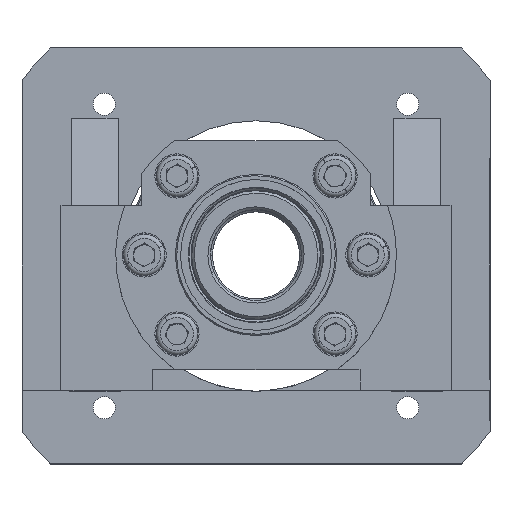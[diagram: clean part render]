
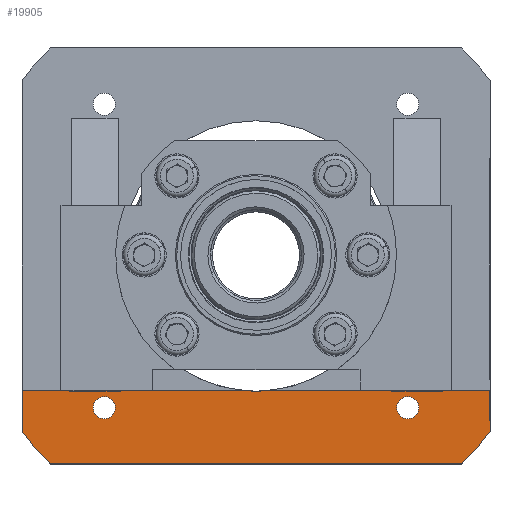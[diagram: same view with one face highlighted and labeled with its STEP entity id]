
A CAD part, top view. The second image highlights one B-rep face of the part: STEP entity #19905.
In plain terms, the highlighted planar face has unit normal (0, 0, 1).
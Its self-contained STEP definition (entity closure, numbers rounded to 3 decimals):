
#17 = CARTESIAN_POINT ( 'NONE',  ( -104.626, -51.7, 21. ) ) ;
#84 = VERTEX_POINT ( 'NONE', #18712 ) ;
#426 = CARTESIAN_POINT ( 'NONE',  ( 58.336, -58.336, 21. ) ) ;
#708 = DIRECTION ( 'NONE',  ( 0., 1., 0. ) ) ;
#779 = ORIENTED_EDGE ( 'NONE', *, *, #3875, .F. ) ;
#949 = CARTESIAN_POINT ( 'NONE',  ( 90., 80., 21. ) ) ;
#1243 = CARTESIAN_POINT ( 'NONE',  ( 0., 0., 21. ) ) ;
#1649 = DIRECTION ( 'NONE',  ( 1., 0., 0. ) ) ;
#1657 = DIRECTION ( 'NONE',  ( 0., 0., 1. ) ) ;
#1754 = CARTESIAN_POINT ( 'NONE',  ( 0., 0., 21. ) ) ;
#2179 = CARTESIAN_POINT ( 'NONE',  ( -5.578, -51.7, 21. ) ) ;
#2398 = LINE ( 'NONE', #949, #3134 ) ;
#2419 = EDGE_LOOP ( 'NONE', ( #22719, #26728, #19095, #17859, #5545, #9483, #21151, #13472 ) ) ;
#2831 = DIRECTION ( 'NONE',  ( 1., 0., 0. ) ) ;
#3102 = DIRECTION ( 'NONE',  ( 1., 0., 0. ) ) ;
#3134 = VECTOR ( 'NONE', #708, 1000. ) ;
#3194 = LINE ( 'NONE', #17, #21068 ) ;
#3410 = EDGE_CURVE ( 'NONE', #3468, #24837, #3194, .T. ) ;
#3468 = VERTEX_POINT ( 'NONE', #7515 ) ;
#3529 = VECTOR ( 'NONE', #6504, 1000. ) ;
#3543 = DIRECTION ( 'NONE',  ( 0., 0., 1. ) ) ;
#3672 = DIRECTION ( 'NONE',  ( 1., 0., 0. ) ) ;
#3687 = VECTOR ( 'NONE', #22119, 1000. ) ;
#3752 = CARTESIAN_POINT ( 'NONE',  ( -90., -80., 21. ) ) ;
#3757 = DIRECTION ( 'NONE',  ( 1., 0., 0. ) ) ;
#3820 = DIRECTION ( 'NONE',  ( 0., 0., 1. ) ) ;
#3825 = CARTESIAN_POINT ( 'NONE',  ( 0., 0., 21. ) ) ;
#3875 = EDGE_CURVE ( 'NONE', #8418, #24867, #27634, .T. ) ;
#4143 = CARTESIAN_POINT ( 'NONE',  ( 90., -51.7, 21. ) ) ;
#4209 = EDGE_CURVE ( 'NONE', #5374, #84, #27237, .T. ) ;
#4530 = DIRECTION ( 'NONE',  ( 1., 0., 0. ) ) ;
#4537 = EDGE_CURVE ( 'NONE', #18984, #6135, #16653, .T. ) ;
#4765 = EDGE_CURVE ( 'NONE', #6135, #16379, #12980, .T. ) ;
#4815 = EDGE_CURVE ( 'NONE', #16379, #10552, #11537, .T. ) ;
#4952 = VERTEX_POINT ( 'NONE', #2179 ) ;
#4988 = EDGE_CURVE ( 'NONE', #10552, #24446, #15509, .T. ) ;
#5078 = EDGE_CURVE ( 'NONE', #24446, #24837, #2398, .T. ) ;
#5374 = VERTEX_POINT ( 'NONE', #28877 ) ;
#5401 = VECTOR ( 'NONE', #3102, 1000. ) ;
#5545 = ORIENTED_EDGE ( 'NONE', *, *, #5078, .T. ) ;
#5654 = EDGE_CURVE ( 'NONE', #18984, #4952, #21565, .T. ) ;
#6135 = VERTEX_POINT ( 'NONE', #13779 ) ;
#6393 = CARTESIAN_POINT ( 'NONE',  ( 90., -67.5, 21. ) ) ;
#6504 = DIRECTION ( 'NONE',  ( 0., -1., 0. ) ) ;
#6551 = CARTESIAN_POINT ( 'NONE',  ( -90., 80., 21. ) ) ;
#7515 = CARTESIAN_POINT ( 'NONE',  ( 5.578, -51.7, 21. ) ) ;
#8166 = ORIENTED_EDGE ( 'NONE', *, *, #28105, .F. ) ;
#8396 = CIRCLE ( 'NONE', #25856, 52. ) ;
#8418 = VERTEX_POINT ( 'NONE', #14037 ) ;
#9483 = ORIENTED_EDGE ( 'NONE', *, *, #3410, .F. ) ;
#10502 = AXIS2_PLACEMENT_3D ( 'NONE', #1754, #1657, #1649 ) ;
#10552 = VERTEX_POINT ( 'NONE', #13010 ) ;
#11404 = CARTESIAN_POINT ( 'NONE',  ( -104.626, -112., 21. ) ) ;
#11484 = DIRECTION ( 'NONE',  ( 1., 0., 0. ) ) ;
#11490 = DIRECTION ( 'NONE',  ( 0., 0., 1. ) ) ;
#11521 = CARTESIAN_POINT ( 'NONE',  ( 58.336, -58.336, 21. ) ) ;
#11537 = LINE ( 'NONE', #3752, #5401 ) ;
#12166 = DIRECTION ( 'NONE',  ( 1., 0., 0. ) ) ;
#12980 = CIRCLE ( 'NONE', #26734, 112.5 ) ;
#13010 = CARTESIAN_POINT ( 'NONE',  ( 79.096, -80., 21. ) ) ;
#13180 = AXIS2_PLACEMENT_3D ( 'NONE', #426, #16798, #2831 ) ;
#13472 = ORIENTED_EDGE ( 'NONE', *, *, #5654, .F. ) ;
#13779 = CARTESIAN_POINT ( 'NONE',  ( -90., -67.5, 21. ) ) ;
#14037 = CARTESIAN_POINT ( 'NONE',  ( -54.086, -58.336, 21. ) ) ;
#14612 = FACE_BOUND ( 'NONE', #16793, .T. ) ;
#14999 = EDGE_CURVE ( 'NONE', #24867, #8418, #19822, .T. ) ;
#15509 = CIRCLE ( 'NONE', #10502, 112.5 ) ;
#15700 = CARTESIAN_POINT ( 'NONE',  ( -62.586, -58.336, 21. ) ) ;
#16379 = VERTEX_POINT ( 'NONE', #26389 ) ;
#16653 = LINE ( 'NONE', #6551, #3529 ) ;
#16793 = EDGE_LOOP ( 'NONE', ( #8166, #24564 ) ) ;
#16798 = DIRECTION ( 'NONE',  ( 0., 0., 1. ) ) ;
#17484 = CARTESIAN_POINT ( 'NONE',  ( -58.336, -58.336, 21. ) ) ;
#17610 = DIRECTION ( 'NONE',  ( 0., 0., -1. ) ) ;
#17859 = ORIENTED_EDGE ( 'NONE', *, *, #4988, .T. ) ;
#18435 = DIRECTION ( 'NONE',  ( 0., 0., 1. ) ) ;
#18712 = CARTESIAN_POINT ( 'NONE',  ( 54.086, -58.336, 21. ) ) ;
#18984 = VERTEX_POINT ( 'NONE', #28176 ) ;
#19095 = ORIENTED_EDGE ( 'NONE', *, *, #4815, .T. ) ;
#19504 = AXIS2_PLACEMENT_3D ( 'NONE', #11521, #11490, #11484 ) ;
#19822 = CIRCLE ( 'NONE', #23719, 4.25 ) ;
#19831 = DIRECTION ( 'NONE',  ( 1., 0., 0. ) ) ;
#19905 = ADVANCED_FACE ( 'NONE', ( #14612, #26318, #20089 ), #20665, .T. ) ;
#20089 = FACE_OUTER_BOUND ( 'NONE', #2419, .T. ) ;
#20665 = PLANE ( 'NONE',  #22292 ) ;
#20899 = ORIENTED_EDGE ( 'NONE', *, *, #14999, .F. ) ;
#21068 = VECTOR ( 'NONE', #12166, 1000. ) ;
#21151 = ORIENTED_EDGE ( 'NONE', *, *, #21432, .T. ) ;
#21432 = EDGE_CURVE ( 'NONE', #3468, #4952, #8396, .T. ) ;
#21565 = LINE ( 'NONE', #22027, #3687 ) ;
#21649 = AXIS2_PLACEMENT_3D ( 'NONE', #22451, #22347, #22252 ) ;
#21993 = CIRCLE ( 'NONE', #13180, 4.25 ) ;
#22027 = CARTESIAN_POINT ( 'NONE',  ( -104.626, -51.7, 21. ) ) ;
#22119 = DIRECTION ( 'NONE',  ( 1., 0., 0. ) ) ;
#22252 = DIRECTION ( 'NONE',  ( 1., 0., 0. ) ) ;
#22292 = AXIS2_PLACEMENT_3D ( 'NONE', #11404, #18435, #4530 ) ;
#22347 = DIRECTION ( 'NONE',  ( 0., 0., 1. ) ) ;
#22451 = CARTESIAN_POINT ( 'NONE',  ( -58.336, -58.336, 21. ) ) ;
#22719 = ORIENTED_EDGE ( 'NONE', *, *, #4537, .T. ) ;
#23719 = AXIS2_PLACEMENT_3D ( 'NONE', #17484, #3543, #19831 ) ;
#24446 = VERTEX_POINT ( 'NONE', #6393 ) ;
#24564 = ORIENTED_EDGE ( 'NONE', *, *, #4209, .F. ) ;
#24837 = VERTEX_POINT ( 'NONE', #4143 ) ;
#24867 = VERTEX_POINT ( 'NONE', #15700 ) ;
#24952 = EDGE_LOOP ( 'NONE', ( #20899, #779 ) ) ;
#25856 = AXIS2_PLACEMENT_3D ( 'NONE', #1243, #17610, #3672 ) ;
#26318 = FACE_BOUND ( 'NONE', #24952, .T. ) ;
#26389 = CARTESIAN_POINT ( 'NONE',  ( -79.096, -80., 21. ) ) ;
#26728 = ORIENTED_EDGE ( 'NONE', *, *, #4765, .T. ) ;
#26734 = AXIS2_PLACEMENT_3D ( 'NONE', #3825, #3820, #3757 ) ;
#27237 = CIRCLE ( 'NONE', #19504, 4.25 ) ;
#27634 = CIRCLE ( 'NONE', #21649, 4.25 ) ;
#28105 = EDGE_CURVE ( 'NONE', #84, #5374, #21993, .T. ) ;
#28176 = CARTESIAN_POINT ( 'NONE',  ( -90., -51.7, 21. ) ) ;
#28877 = CARTESIAN_POINT ( 'NONE',  ( 62.586, -58.336, 21. ) ) ;
